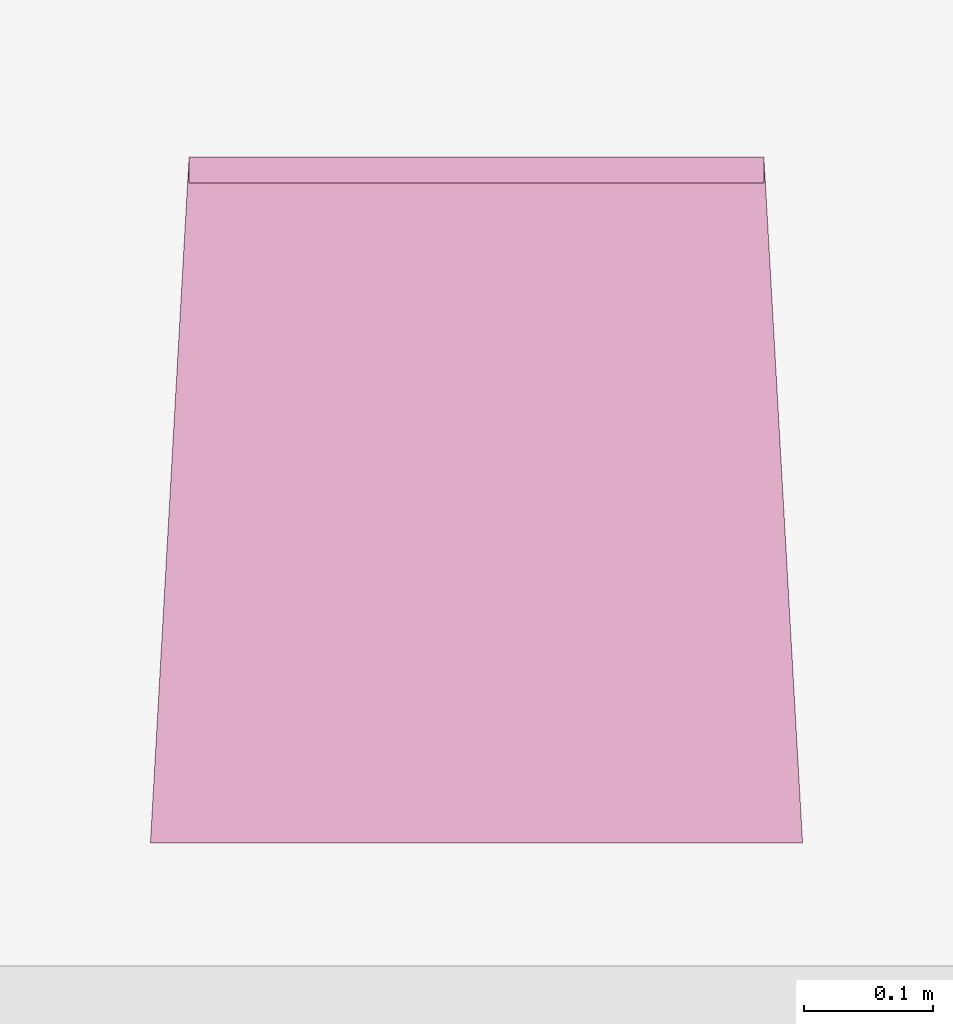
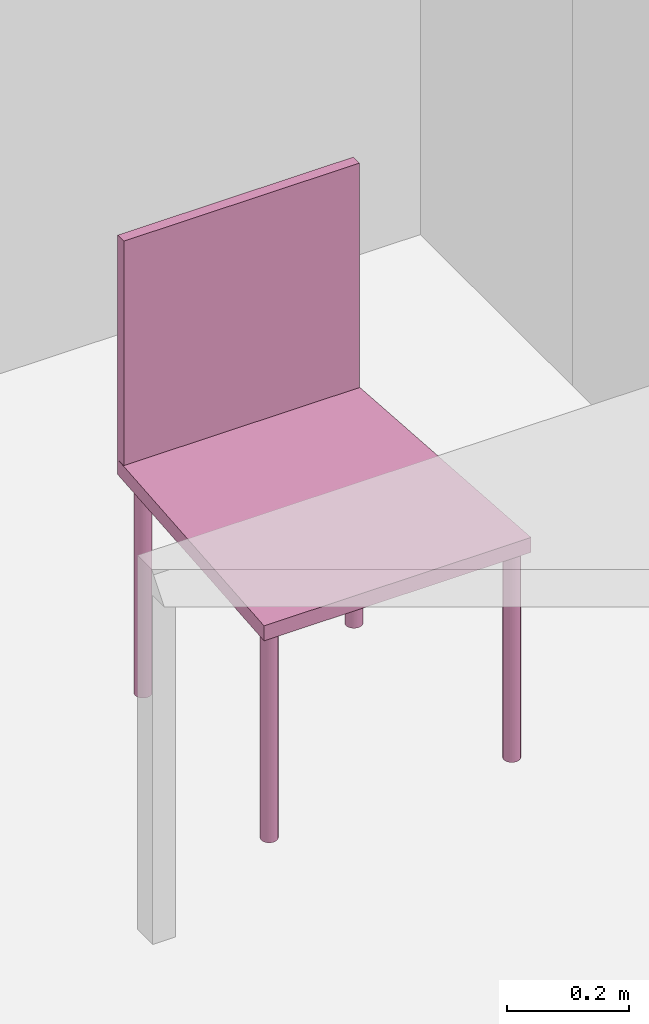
"""IFC4 building model written with IfcOpenShell, lengths in metres."""

from ifc_helpers import new_model, entity, si_unit, converted_unit, derived_unit, frame, origin, place, context, subcontext, project, spatial, faceted_brep, element, save


model = new_model("IFC4")

# Units and contexts
model_context = context("Model", 3, precision=1e-05, world=origin())
body_context = subcontext(model_context, "Body", "Model", "MODEL_VIEW")
ifc_project = project(units=[si_unit("LENGTHUNIT", "METRE"), si_unit("AREAUNIT", "SQUARE_METRE"), si_unit("VOLUMEUNIT", "CUBIC_METRE"), si_unit("MASSUNIT", "GRAM", prefix="KILO"), converted_unit("PLANEANGLEUNIT", "DEGREE", entity("IfcPlaneAngleMeasure", 0.0174532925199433), si_unit("PLANEANGLEUNIT", "RADIAN"), dimensions=[0, 0, 0, 0, 0, 0, 0]), derived_unit("THERMALTRANSMITTANCEUNIT", [(si_unit("POWERUNIT", "WATT"), 1), (si_unit("THERMODYNAMICTEMPERATUREUNIT", "KELVIN"), -1), (si_unit("LENGTHUNIT", "METRE"), -2)]), derived_unit("VOLUMETRICFLOWRATEUNIT", [(si_unit("LENGTHUNIT", "METRE"), 3), (converted_unit("TIMEUNIT", "hour", entity("IfcTimeMeasure", 3600.0), si_unit("TIMEUNIT", "SECOND"), dimensions=[0, 0, 1, 0, 0, 0, 0]), -1), (si_unit("LENGTHUNIT", "METRE"), -1)])], contexts=[model_context])

# Building, storeys
building_placement = place(None, origin())
building = spatial("IfcBuilding", under=ifc_project, at=building_placement, Name="HABITATGE PLURIFAMILIAR", CompositionType="ELEMENT")
storey_1_placement = place(building_placement, frame((0.0, 0.0, 6.25)))
storey_1 = spatial("IfcBuildingStorey", under=building, at=storey_1_placement, Name="PLANTA PRIMERA", CompositionType="ELEMENT", Elevation=6.25)
storey_2_placement = place(storey_1_placement, frame((0.0, 0.0, 3.35)))
storey_2 = spatial("IfcBuildingStorey", under=storey_1, at=storey_2_placement, Name="NOU", CompositionType="PARTIAL")

# Furniture
furniture_placement = place(storey_2_placement, frame((417.395280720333, 15.0141521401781, -3.35114412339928)))
element("IfcFurniture", 1, at=furniture_placement, inside=storey_2, Name="Cadira confient_P1", context=body_context, shape_type="Brep", body=[
    faceted_brep([(0.00928777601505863, 0.0250324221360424, 0.0), (0.0095259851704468, 0.0224394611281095, 0.0), (0.0102108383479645, 0.0199272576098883, 0.0), (0.011321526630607, 0.0175721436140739, 0.0), (0.0128243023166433, 0.0154456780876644, 0.0), (0.0146735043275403, 0.0136124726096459, 0.0), (0.016812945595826, 0.0121282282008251, 0.0), (0.0191776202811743, 0.0110380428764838, 0.0), (0.0216956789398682, 0.0103750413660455, 0.0), (0.0242906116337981, 0.0101593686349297, 0.0), (0.0268835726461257, 0.0103975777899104, 0.0), (0.0293957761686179, 0.0110824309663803, 0.0), (0.0317508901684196, 0.012193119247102, 0.0), (0.0338773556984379, 0.0136958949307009, 0.0), (0.035710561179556, 0.0155450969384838, 0.0), (0.0371948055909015, 0.0176845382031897, 0.0), (0.0382849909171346, 0.0200492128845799, 0.0), (0.0389479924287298, 0.022567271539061, 0.0), (0.0391636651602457, 0.0251622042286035, 0.0), (0.0389254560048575, 0.0277551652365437, 0.0), (0.0382406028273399, 0.0302673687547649, 0.0), (0.0371299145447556, 0.0326224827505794, 0.0), (0.0356271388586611, 0.0347489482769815, 0.0), (0.0337779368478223, 0.0365821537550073, 0.0), (0.0316384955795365, 0.0380663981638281, 0.0), (0.02927382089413, 0.0391565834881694, 0.0), (0.0267557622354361, 0.0398195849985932, 0.0), (0.0241608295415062, 0.0400352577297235, 0.0), (0.0215678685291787, 0.0397970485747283, 0.0), (0.0190556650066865, 0.0391121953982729, 0.0), (0.016700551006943, 0.0380015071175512, 0.0), (0.0145740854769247, 0.0364987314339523, 0.0), (0.0127408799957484, 0.0346495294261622, 0.0), (0.011256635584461, 0.0325100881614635, 0.0), (0.0101664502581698, 0.0301454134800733, 0.0), (0.00950344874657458, 0.0276273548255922, 0.0), (0.00928777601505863, 0.0250324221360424, 0.448281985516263), (0.00950344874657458, 0.0276273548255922, 0.448281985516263), (0.0101664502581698, 0.0301454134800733, 0.448281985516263), (0.011256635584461, 0.0325100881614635, 0.448281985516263), (0.0127408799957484, 0.0346495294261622, 0.448281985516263), (0.0145740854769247, 0.0364987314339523, 0.448281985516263), (0.016700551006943, 0.0380015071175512, 0.448281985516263), (0.0190556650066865, 0.0391121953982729, 0.448281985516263), (0.0215678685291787, 0.0397970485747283, 0.448281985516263), (0.0241608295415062, 0.0400352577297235, 0.448281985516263), (0.0267557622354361, 0.0398195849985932, 0.448281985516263), (0.02927382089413, 0.0391565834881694, 0.448281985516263), (0.0316384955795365, 0.0380663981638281, 0.448281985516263), (0.0337779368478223, 0.0365821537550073, 0.448281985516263), (0.0356271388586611, 0.0347489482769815, 0.448281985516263), (0.0371299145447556, 0.0326224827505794, 0.448281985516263), (0.0382406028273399, 0.0302673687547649, 0.448281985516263), (0.0389254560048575, 0.0277551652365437, 0.448281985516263), (0.0391636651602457, 0.0251622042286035, 0.448281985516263), (0.0389479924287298, 0.022567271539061, 0.448281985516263), (0.0382849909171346, 0.0200492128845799, 0.448281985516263), (0.0371948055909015, 0.0176845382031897, 0.448281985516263), (0.035710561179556, 0.0155450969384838, 0.448281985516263), (0.0338773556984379, 0.0136958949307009, 0.448281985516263), (0.0317508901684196, 0.012193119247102, 0.448281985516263), (0.0293957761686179, 0.0110824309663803, 0.448281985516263), (0.0268835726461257, 0.0103975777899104, 0.448281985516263), (0.0242906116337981, 0.0101593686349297, 0.448281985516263), (0.0216956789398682, 0.0103750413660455, 0.448281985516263), (0.0191776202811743, 0.0110380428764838, 0.448281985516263), (0.016812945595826, 0.0121282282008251, 0.448281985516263), (0.0146735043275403, 0.0136124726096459, 0.448281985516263), (0.0128243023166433, 0.0154456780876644, 0.448281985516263), (0.011321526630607, 0.0175721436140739, 0.448281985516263), (0.0102108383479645, 0.0199272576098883, 0.448281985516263), (0.0095259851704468, 0.0224394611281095, 0.448281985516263)], [[[0, 1, 2, 3, 4, 5, 6, 7, 8, 9, 10, 11, 12, 13, 14, 15, 16, 17, 18, 19, 20, 21, 22, 23, 24, 25, 26, 27, 28, 29, 30, 31, 32, 33, 34, 35]], [[36, 37, 38, 39, 40, 41, 42, 43, 44, 45, 46, 47, 48, 49, 50, 51, 52, 53, 54, 55, 56, 57, 58, 59, 60, 61, 62, 63, 64, 65, 66, 67, 68, 69, 70, 71]], [[35, 37, 36, 0]], [[34, 38, 37, 35]], [[33, 39, 38, 34]], [[32, 40, 39, 33]], [[31, 41, 40, 32]], [[30, 42, 41, 31]], [[29, 43, 42, 30]], [[28, 44, 43, 29]], [[27, 45, 44, 28]], [[26, 46, 45, 27]], [[25, 47, 46, 26]], [[24, 48, 47, 25]], [[23, 49, 48, 24]], [[22, 50, 49, 23]], [[21, 51, 50, 22]], [[20, 52, 51, 21]], [[19, 53, 52, 20]], [[18, 54, 53, 19]], [[17, 55, 54, 18]], [[16, 56, 55, 17]], [[15, 57, 56, 16]], [[14, 58, 57, 15]], [[13, 59, 58, 14]], [[12, 60, 59, 13]], [[11, 61, 60, 12]], [[10, 62, 61, 11]], [[9, 63, 62, 10]], [[8, 64, 63, 9]], [[7, 65, 64, 8]], [[6, 66, 65, 7]], [[5, 67, 66, 6]], [[4, 68, 67, 5]], [[3, 69, 68, 4]], [[2, 70, 69, 3]], [[1, 71, 70, 2]], [[0, 36, 71, 1]]], orient=[[False], [False], [False], [False], [False], [False], [False], [False], [False], [False], [False], [False], [False], [False], [False], [False], [False], [False], [False], [False], [False], [False], [False], [False], [False], [False], [False], [False], [False], [False], [False], [False], [False], [False], [False], [False], [False], [False]]),
    faceted_brep([(0.0369257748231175, 0.487439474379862, 0.0), (0.0371639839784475, 0.484846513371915, 0.0), (0.0378488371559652, 0.482334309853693, 0.0), (0.0389595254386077, 0.479979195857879, 0.0), (0.040462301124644, 0.477852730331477, 0.0), (0.042311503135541, 0.476019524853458, 0.0), (0.0444509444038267, 0.47453528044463, 0.0), (0.046815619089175, 0.473445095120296, 0.0), (0.0493336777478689, 0.472782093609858, 0.0), (0.0519286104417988, 0.472566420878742, 0.0), (0.0545215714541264, 0.47280463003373, 0.0), (0.0570337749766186, 0.473489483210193, 0.0), (0.0593888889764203, 0.474600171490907, 0.0), (0.0615153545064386, 0.476102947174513, 0.0), (0.0633485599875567, 0.477952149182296, 0.0), (0.0648328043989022, 0.480091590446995, 0.0), (0.0659229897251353, 0.482456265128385, 0.0), (0.0665859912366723, 0.484974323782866, 0.0), (0.0668016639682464, 0.487569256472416, 0.0), (0.0665634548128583, 0.490162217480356, 0.0), (0.0658786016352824, 0.492674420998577, 0.0), (0.0647679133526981, 0.495029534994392, 0.0), (0.0632651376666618, 0.497156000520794, 0.0), (0.0614159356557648, 0.498989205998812, 0.0), (0.059276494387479, 0.50047345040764, 0.0), (0.0569118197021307, 0.501563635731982, 0.0), (0.0543937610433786, 0.502226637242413, 0.0), (0.0517988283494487, 0.502442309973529, 0.0), (0.0492058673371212, 0.502204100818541, 0.0), (0.0466936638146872, 0.501519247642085, 0.0), (0.0443385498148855, 0.500408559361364, 0.0), (0.0422120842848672, 0.498905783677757, 0.0), (0.0403788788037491, 0.497056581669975, 0.0), (0.0388946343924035, 0.494917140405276, 0.0), (0.0378044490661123, 0.492552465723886, 0.0), (0.0371414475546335, 0.490034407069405, 0.0), (0.0369257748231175, 0.487439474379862, 0.448281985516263), (0.0371414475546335, 0.490034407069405, 0.448281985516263), (0.0378044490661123, 0.492552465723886, 0.448281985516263), (0.0388946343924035, 0.494917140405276, 0.448281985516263), (0.0403788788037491, 0.497056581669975, 0.448281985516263), (0.0422120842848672, 0.498905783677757, 0.448281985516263), (0.0443385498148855, 0.500408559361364, 0.448281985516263), (0.0466936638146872, 0.501519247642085, 0.448281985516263), (0.0492058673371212, 0.502204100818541, 0.448281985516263), (0.0517988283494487, 0.502442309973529, 0.448281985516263), (0.0543937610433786, 0.502226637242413, 0.448281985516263), (0.0569118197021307, 0.501563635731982, 0.448281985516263), (0.059276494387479, 0.50047345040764, 0.448281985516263), (0.0614159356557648, 0.498989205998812, 0.448281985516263), (0.0632651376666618, 0.497156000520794, 0.448281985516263), (0.0647679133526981, 0.495029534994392, 0.448281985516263), (0.0658786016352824, 0.492674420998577, 0.448281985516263), (0.0665634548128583, 0.490162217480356, 0.448281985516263), (0.0668016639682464, 0.487569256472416, 0.448281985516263), (0.0665859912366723, 0.484974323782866, 0.448281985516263), (0.0659229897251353, 0.482456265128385, 0.448281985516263), (0.0648328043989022, 0.480091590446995, 0.448281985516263), (0.0633485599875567, 0.477952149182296, 0.448281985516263), (0.0615153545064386, 0.476102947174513, 0.448281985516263), (0.0593888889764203, 0.474600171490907, 0.448281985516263), (0.0570337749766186, 0.473489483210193, 0.448281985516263), (0.0545215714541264, 0.47280463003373, 0.448281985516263), (0.0519286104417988, 0.472566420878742, 0.448281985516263), (0.0493336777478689, 0.472782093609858, 0.448281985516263), (0.046815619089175, 0.473445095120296, 0.448281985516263), (0.0444509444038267, 0.47453528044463, 0.448281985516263), (0.042311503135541, 0.476019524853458, 0.448281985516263), (0.040462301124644, 0.477852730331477, 0.448281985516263), (0.0389595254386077, 0.479979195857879, 0.448281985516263), (0.0378488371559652, 0.482334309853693, 0.448281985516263), (0.0371639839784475, 0.484846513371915, 0.448281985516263)], [[[0, 1, 2, 3, 4, 5, 6, 7, 8, 9, 10, 11, 12, 13, 14, 15, 16, 17, 18, 19, 20, 21, 22, 23, 24, 25, 26, 27, 28, 29, 30, 31, 32, 33, 34, 35]], [[36, 37, 38, 39, 40, 41, 42, 43, 44, 45, 46, 47, 48, 49, 50, 51, 52, 53, 54, 55, 56, 57, 58, 59, 60, 61, 62, 63, 64, 65, 66, 67, 68, 69, 70, 71]], [[35, 37, 36, 0]], [[34, 38, 37, 35]], [[33, 39, 38, 34]], [[32, 40, 39, 33]], [[31, 41, 40, 32]], [[30, 42, 41, 31]], [[29, 43, 42, 30]], [[28, 44, 43, 29]], [[27, 45, 44, 28]], [[26, 46, 45, 27]], [[25, 47, 46, 26]], [[24, 48, 47, 25]], [[23, 49, 48, 24]], [[22, 50, 49, 23]], [[21, 51, 50, 22]], [[20, 52, 51, 21]], [[19, 53, 52, 20]], [[18, 54, 53, 19]], [[17, 55, 54, 18]], [[16, 56, 55, 17]], [[15, 57, 56, 16]], [[14, 58, 57, 15]], [[13, 59, 58, 14]], [[12, 60, 59, 13]], [[11, 61, 60, 12]], [[10, 62, 61, 11]], [[9, 63, 62, 10]], [[8, 64, 63, 9]], [[7, 65, 64, 8]], [[6, 66, 65, 7]], [[5, 67, 66, 6]], [[4, 68, 67, 5]], [[3, 69, 68, 4]], [[2, 70, 69, 3]], [[1, 71, 70, 2]], [[0, 36, 71, 1]]], orient=[[False], [False], [False], [False], [False], [False], [False], [False], [False], [False], [False], [False], [False], [False], [False], [False], [False], [False], [False], [False], [False], [False], [False], [False], [False], [False], [False], [False], [False], [False], [False], [False], [False], [False], [False], [False], [False], [False]]),
    faceted_brep([(0.469287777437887, 0.0250324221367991, 0.0), (0.469525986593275, 0.022439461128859, 0.0), (0.470210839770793, 0.0199272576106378, 0.0), (0.471321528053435, 0.0175721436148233, 0.0), (0.472824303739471, 0.0154456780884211, 0.0), (0.474673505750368, 0.0136124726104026, 0.0), (0.476812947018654, 0.0121282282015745, 0.0), (0.479177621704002, 0.0110380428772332, 0.0), (0.481695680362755, 0.0103750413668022, 0.0), (0.484290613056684, 0.0101593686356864, 0.0), (0.486883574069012, 0.0103975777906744, 0.0), (0.489395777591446, 0.0110824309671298, 0.0), (0.491750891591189, 0.0121931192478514, 0.0), (0.493877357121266, 0.0136958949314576, 0.0), (0.495710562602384, 0.0155450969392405, 0.0), (0.49719480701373, 0.0176845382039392, 0.0), (0.498284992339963, 0.0200492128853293, 0.0), (0.498947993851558, 0.0225672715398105, 0.0), (0.499163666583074, 0.0251622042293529, 0.0), (0.498925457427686, 0.0277551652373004, 0.0), (0.498240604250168, 0.0302673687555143, 0.0), (0.497129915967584, 0.0326224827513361, 0.0), (0.495627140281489, 0.0347489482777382, 0.0), (0.49377793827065, 0.0365821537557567, 0.0), (0.491638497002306, 0.0380663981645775, 0.0), (0.489273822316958, 0.0391565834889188, 0.0), (0.486755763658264, 0.0398195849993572, 0.0), (0.484160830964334, 0.040035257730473, 0.0), (0.481567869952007, 0.039797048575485, 0.0), (0.479055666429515, 0.0391121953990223, 0.0), (0.476700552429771, 0.0380015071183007, 0.0), (0.474574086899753, 0.0364987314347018, 0.0), (0.472740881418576, 0.0346495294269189, 0.0), (0.471256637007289, 0.0325100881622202, 0.0), (0.470166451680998, 0.0301454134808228, 0.0), (0.469503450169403, 0.0276273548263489, 0.0), (0.469287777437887, 0.0250324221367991, 0.448281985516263), (0.469503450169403, 0.0276273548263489, 0.448281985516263), (0.470166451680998, 0.0301454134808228, 0.448281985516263), (0.471256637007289, 0.0325100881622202, 0.448281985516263), (0.472740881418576, 0.0346495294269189, 0.448281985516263), (0.474574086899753, 0.0364987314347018, 0.448281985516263), (0.476700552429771, 0.0380015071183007, 0.448281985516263), (0.479055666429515, 0.0391121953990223, 0.448281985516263), (0.481567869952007, 0.039797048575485, 0.448281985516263), (0.484160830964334, 0.040035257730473, 0.448281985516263), (0.486755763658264, 0.0398195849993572, 0.448281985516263), (0.489273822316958, 0.0391565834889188, 0.448281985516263), (0.491638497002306, 0.0380663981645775, 0.448281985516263), (0.49377793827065, 0.0365821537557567, 0.448281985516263), (0.495627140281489, 0.0347489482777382, 0.448281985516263), (0.497129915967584, 0.0326224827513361, 0.448281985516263), (0.498240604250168, 0.0302673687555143, 0.448281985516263), (0.498925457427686, 0.0277551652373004, 0.448281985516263), (0.499163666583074, 0.0251622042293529, 0.448281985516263), (0.498947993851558, 0.0225672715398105, 0.448281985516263), (0.498284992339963, 0.0200492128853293, 0.448281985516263), (0.49719480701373, 0.0176845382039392, 0.448281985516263), (0.495710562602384, 0.0155450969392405, 0.448281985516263), (0.493877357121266, 0.0136958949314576, 0.448281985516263), (0.491750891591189, 0.0121931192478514, 0.448281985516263), (0.489395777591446, 0.0110824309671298, 0.448281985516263), (0.486883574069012, 0.0103975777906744, 0.448281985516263), (0.484290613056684, 0.0101593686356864, 0.448281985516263), (0.481695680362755, 0.0103750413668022, 0.448281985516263), (0.479177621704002, 0.0110380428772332, 0.448281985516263), (0.476812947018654, 0.0121282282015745, 0.448281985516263), (0.474673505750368, 0.0136124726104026, 0.448281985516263), (0.472824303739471, 0.0154456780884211, 0.448281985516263), (0.471321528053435, 0.0175721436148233, 0.448281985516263), (0.470210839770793, 0.0199272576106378, 0.448281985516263), (0.469525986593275, 0.022439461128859, 0.448281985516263)], [[[0, 1, 2, 3, 4, 5, 6, 7, 8, 9, 10, 11, 12, 13, 14, 15, 16, 17, 18, 19, 20, 21, 22, 23, 24, 25, 26, 27, 28, 29, 30, 31, 32, 33, 34, 35]], [[36, 37, 38, 39, 40, 41, 42, 43, 44, 45, 46, 47, 48, 49, 50, 51, 52, 53, 54, 55, 56, 57, 58, 59, 60, 61, 62, 63, 64, 65, 66, 67, 68, 69, 70, 71]], [[35, 37, 36, 0]], [[34, 38, 37, 35]], [[33, 39, 38, 34]], [[32, 40, 39, 33]], [[31, 41, 40, 32]], [[30, 42, 41, 31]], [[29, 43, 42, 30]], [[28, 44, 43, 29]], [[27, 45, 44, 28]], [[26, 46, 45, 27]], [[25, 47, 46, 26]], [[24, 48, 47, 25]], [[23, 49, 48, 24]], [[22, 50, 49, 23]], [[21, 51, 50, 22]], [[20, 52, 51, 21]], [[19, 53, 52, 20]], [[18, 54, 53, 19]], [[17, 55, 54, 18]], [[16, 56, 55, 17]], [[15, 57, 56, 16]], [[14, 58, 57, 15]], [[13, 59, 58, 14]], [[12, 60, 59, 13]], [[11, 61, 60, 12]], [[10, 62, 61, 11]], [[9, 63, 62, 10]], [[8, 64, 63, 9]], [[7, 65, 64, 8]], [[6, 66, 65, 7]], [[5, 67, 66, 6]], [[4, 68, 67, 5]], [[3, 69, 68, 4]], [[2, 70, 69, 3]], [[1, 71, 70, 2]], [[0, 36, 71, 1]]], orient=[[False], [False], [False], [False], [False], [False], [False], [False], [False], [False], [False], [False], [False], [False], [False], [False], [False], [False], [False], [False], [False], [False], [False], [False], [False], [False], [False], [False], [False], [False], [False], [False], [False], [False], [False], [False], [False], [False]]),
    faceted_brep([(0.436925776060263, 0.487439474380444, 0.0), (0.437163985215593, 0.484846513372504, 0.0), (0.437848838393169, 0.48233430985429, 0.0), (0.438959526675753, 0.479979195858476, 0.0), (0.440462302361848, 0.477852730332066, 0.0), (0.442311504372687, 0.47601952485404, 0.0), (0.444450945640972, 0.47453528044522, 0.0), (0.446815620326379, 0.473445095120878, 0.0), (0.449333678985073, 0.472782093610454, 0.0), (0.451928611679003, 0.472566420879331, 0.0), (0.454521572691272, 0.472804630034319, 0.0), (0.457033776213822, 0.473489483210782, 0.0), (0.459388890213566, 0.474600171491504, 0.0), (0.461515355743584, 0.476102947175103, 0.0), (0.46334856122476, 0.477952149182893, 0.0), (0.464832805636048, 0.480091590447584, 0.0), (0.465922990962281, 0.482456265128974, 0.0), (0.466585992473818, 0.484974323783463, 0.0), (0.466801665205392, 0.487569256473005, 0.0), (0.466563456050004, 0.490162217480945, 0.0), (0.465878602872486, 0.492674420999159, 0.0), (0.464767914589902, 0.495029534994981, 0.0), (0.463265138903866, 0.497156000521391, 0.0), (0.46141593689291, 0.498989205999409, 0.0), (0.459276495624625, 0.50047345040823, 0.0), (0.456911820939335, 0.501563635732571, 0.0), (0.454393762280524, 0.502226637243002, 0.0), (0.451798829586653, 0.502442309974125, 0.0), (0.449205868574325, 0.502204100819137, 0.0), (0.446693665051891, 0.501519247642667, 0.0), (0.444338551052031, 0.500408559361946, 0.0), (0.442212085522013, 0.498905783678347, 0.0), (0.440378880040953, 0.497056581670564, 0.0), (0.438894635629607, 0.494917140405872, 0.0), (0.437804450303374, 0.492552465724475, 0.0), (0.437141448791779, 0.490034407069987, 0.0), (0.436925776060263, 0.487439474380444, 0.448281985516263), (0.437141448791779, 0.490034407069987, 0.448281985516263), (0.437804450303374, 0.492552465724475, 0.448281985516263), (0.438894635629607, 0.494917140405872, 0.448281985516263), (0.440378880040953, 0.497056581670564, 0.448281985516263), (0.442212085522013, 0.498905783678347, 0.448281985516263), (0.444338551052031, 0.500408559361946, 0.448281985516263), (0.446693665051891, 0.501519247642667, 0.448281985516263), (0.449205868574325, 0.502204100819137, 0.448281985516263), (0.451798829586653, 0.502442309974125, 0.448281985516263), (0.454393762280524, 0.502226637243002, 0.448281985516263), (0.456911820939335, 0.501563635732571, 0.448281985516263), (0.459276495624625, 0.50047345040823, 0.448281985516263), (0.46141593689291, 0.498989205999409, 0.448281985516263), (0.463265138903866, 0.497156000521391, 0.448281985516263), (0.464767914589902, 0.495029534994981, 0.448281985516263), (0.465878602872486, 0.492674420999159, 0.448281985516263), (0.466563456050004, 0.490162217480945, 0.448281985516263), (0.466801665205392, 0.487569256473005, 0.448281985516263), (0.466585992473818, 0.484974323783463, 0.448281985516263), (0.465922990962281, 0.482456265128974, 0.448281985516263), (0.464832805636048, 0.480091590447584, 0.448281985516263), (0.46334856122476, 0.477952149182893, 0.448281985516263), (0.461515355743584, 0.476102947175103, 0.448281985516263), (0.459388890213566, 0.474600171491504, 0.448281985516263), (0.457033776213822, 0.473489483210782, 0.448281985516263), (0.454521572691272, 0.472804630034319, 0.448281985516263), (0.451928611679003, 0.472566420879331, 0.448281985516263), (0.449333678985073, 0.472782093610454, 0.448281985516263), (0.446815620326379, 0.473445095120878, 0.448281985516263), (0.444450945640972, 0.47453528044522, 0.448281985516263), (0.442311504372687, 0.47601952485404, 0.448281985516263), (0.440462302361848, 0.477852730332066, 0.448281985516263), (0.438959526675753, 0.479979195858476, 0.448281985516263), (0.437848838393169, 0.48233430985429, 0.448281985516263), (0.437163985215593, 0.484846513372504, 0.448281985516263)], [[[0, 1, 2, 3, 4, 5, 6, 7, 8, 9, 10, 11, 12, 13, 14, 15, 16, 17, 18, 19, 20, 21, 22, 23, 24, 25, 26, 27, 28, 29, 30, 31, 32, 33, 34, 35]], [[36, 37, 38, 39, 40, 41, 42, 43, 44, 45, 46, 47, 48, 49, 50, 51, 52, 53, 54, 55, 56, 57, 58, 59, 60, 61, 62, 63, 64, 65, 66, 67, 68, 69, 70, 71]], [[35, 37, 36, 0]], [[34, 38, 37, 35]], [[33, 39, 38, 34]], [[32, 40, 39, 33]], [[31, 41, 40, 32]], [[30, 42, 41, 31]], [[29, 43, 42, 30]], [[28, 44, 43, 29]], [[27, 45, 44, 28]], [[26, 46, 45, 27]], [[25, 47, 46, 26]], [[24, 48, 47, 25]], [[23, 49, 48, 24]], [[22, 50, 49, 23]], [[21, 51, 50, 22]], [[20, 52, 51, 21]], [[19, 53, 52, 20]], [[18, 54, 53, 19]], [[17, 55, 54, 18]], [[16, 56, 55, 17]], [[15, 57, 56, 16]], [[14, 58, 57, 15]], [[13, 59, 58, 14]], [[12, 60, 59, 13]], [[11, 61, 60, 12]], [[10, 62, 61, 11]], [[9, 63, 62, 10]], [[8, 64, 63, 9]], [[7, 65, 64, 8]], [[6, 66, 65, 7]], [[5, 67, 66, 6]], [[4, 68, 67, 5]], [[3, 69, 68, 4]], [[2, 70, 69, 3]], [[1, 71, 70, 2]], [[0, 36, 71, 1]]], orient=[[False], [False], [False], [False], [False], [False], [False], [False], [False], [False], [False], [False], [False], [False], [False], [False], [False], [False], [False], [False], [False], [False], [False], [False], [False], [False], [False], [False], [False], [False], [False], [False], [False], [False], [False], [False], [False], [False]]),
    faceted_brep([(0.476514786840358, 0.532607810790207, 0.418281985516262), (0.0300000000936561, 0.532607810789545, 0.418281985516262), (0.0, 0.0, 0.418281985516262), (0.506514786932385, 0.0, 0.418281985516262), (0.506514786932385, 0.0, 0.448281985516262), (0.0, 0.0, 0.448281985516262), (0.0300000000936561, 0.532607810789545, 0.448281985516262), (0.476514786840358, 0.532607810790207, 0.448281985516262)], [[[0, 1, 2, 3]], [[4, 5, 6, 7]], [[3, 4, 7, 0]], [[2, 5, 4, 3]], [[1, 6, 5, 2]], [[0, 7, 6, 1]]], orient=[[False], [False], [False], [False], [False], [False]]),
    faceted_brep([(0.476514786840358, 0.512607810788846, 0.448281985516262), (0.476514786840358, 0.532607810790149, 0.448281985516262), (0.0300000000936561, 0.532607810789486, 0.448281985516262), (0.0300000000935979, 0.512607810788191, 0.448281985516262), (0.0300000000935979, 0.512607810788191, 0.898281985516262), (0.0300000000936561, 0.532607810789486, 0.898281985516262), (0.476514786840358, 0.532607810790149, 0.898281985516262), (0.476514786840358, 0.512607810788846, 0.898281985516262)], [[[0, 1, 2, 3]], [[4, 5, 6, 7]], [[3, 4, 7, 0]], [[2, 5, 4, 3]], [[1, 6, 5, 2]], [[0, 7, 6, 1]]], orient=[[False], [False], [False], [False], [False], [False]]),
])

save(model, "model.ifc")
